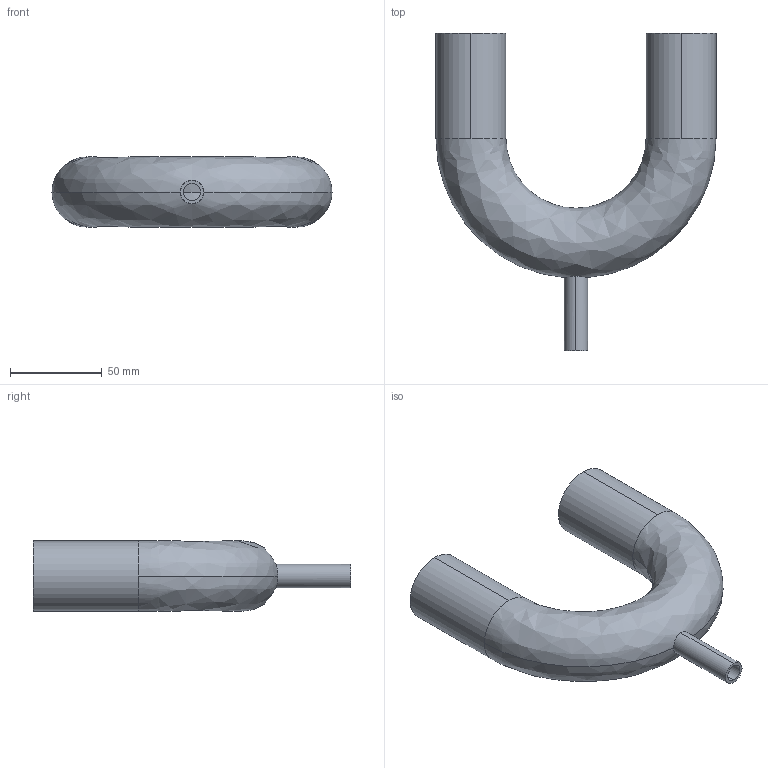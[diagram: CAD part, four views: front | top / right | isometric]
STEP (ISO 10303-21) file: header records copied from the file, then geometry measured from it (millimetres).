
FILE_DESCRIPTION (( 'STEP AP214' ), '1' );
FILE_NAME ('TE2UBWWW6L1.5x.5-...STEP', '2016-05-25T05:26:30', ( 'eran' ), ( '' ), 'SwSTEP 2.0', 'SolidWorks 2016', '' );
FILE_SCHEMA (( 'AUTOMOTIVE_DESIGN' ));
Length unit declared in the file: millimetre
Products named in the file (1): TE2UBWWW6L1.5x.5-..
Bounding box: 152.4 x 173 x 38.1 mm (x, y, z)
Volume: 57704.8 mm3; surface area: 70372.9 mm2
Topology: 1 solids, 1 shells, 19 faces, 54 edges, 36 vertices
Faces by surface type: cylinder 12, bspline 4, plane 3
Entity records: 872 total; most frequent: CARTESIAN_POINT 330, DIRECTION 112, ORIENTED_EDGE 108, EDGE_CURVE 54, AXIS2_PLACEMENT_3D 50, VERTEX_POINT 36, CIRCLE 34, EDGE_LOOP 22
